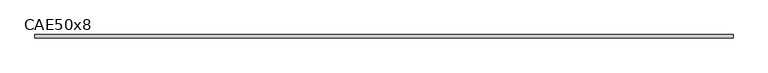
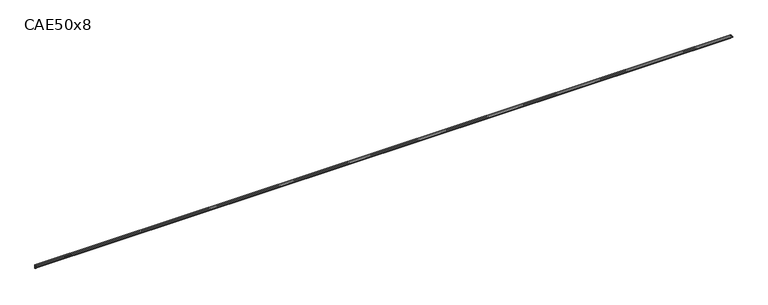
"""IFC4 building model written with IfcOpenShell, lengths in millimetres: beam geometry, L-Cornières : CAE50x8."""

from ifc_helpers import new_model, si_unit, point, frame, frame_2d, origin, place, context, project, spatial, polyline, circle_curve, trimmed, segment, composite_curve, outline, extrude, source, transform, mapped, element, save


def cae50x8_85225185(model_context):
    return source(origin(), model_context, "Body", "SweptSolid", [
        extrude(outline(composite_curve([segment(polyline([(15.2, 15.2), (15.2, -34.8)]), True, "CONTINUOUS"), segment(trimmed(circle_curve(frame_2d((15.2, -26.8)), 8.0), [point((15.2, -34.8))], [point((7.2, -26.8))], False, "CARTESIAN"), True, "CONTINUOUS"), segment(polyline([(7.2, -26.8), (7.2, -0.8)]), True, "CONTINUOUS"), segment(trimmed(circle_curve(frame_2d((-0.8, -0.8)), 8.0), [point((7.2, -0.8))], [point((-0.8, 7.2))], True, "CARTESIAN"), True, "CONTINUOUS"), segment(polyline([(-0.8, 7.2), (-26.8, 7.2)]), True, "CONTINUOUS"), segment(trimmed(circle_curve(frame_2d((-26.8, 15.2)), 8.0), [point((-26.8, 7.2))], [point((-34.8, 15.2))], False, "CARTESIAN"), True, "CONTINUOUS"), segment(polyline([(-34.8, 15.2), (15.2, 15.2)]), True, "CONTINUOUS")], self_intersect=False)), frame((-5481.0, 0.0, 0.0), z_axis=(1.0, 0.0, 0.0), x_axis=(0.0, 1.0, 0.0)), (0.0, 0.0, 1.0), 10735.0),
    ])


if __name__ == "__main__":
    model = new_model("IFC4")
    model_context = context("Model", 3, world=origin())
    ifc_project = project(units=[si_unit("LENGTHUNIT", "METRE", prefix="MILLI")], contexts=[model_context])
    site = spatial("IfcSite", under=ifc_project)
    building = spatial("IfcBuilding", under=site)
    placement = place(None, origin())
    cae50x8_shape = cae50x8_85225185(model_context)
    element("IfcBeam", 1, ObjectType="L-Cornières : CAE50x8", at=placement, inside=building, context=model_context, shape_type="MappedRepresentation", body=[
        mapped(cae50x8_shape, transform((0.0, 0.0, 0.0), x_axis=(1.0, 0.0, 0.0), y_axis=(0.0, 1.0, 0.0), z_axis=(0.0, 0.0, 1.0))),
    ])
    save(model, "model.ifc")
